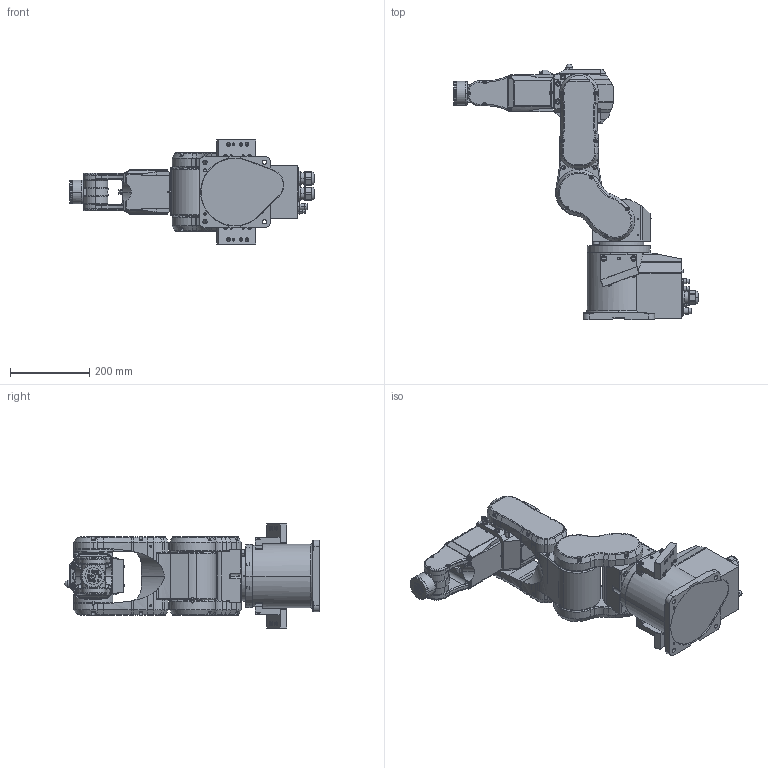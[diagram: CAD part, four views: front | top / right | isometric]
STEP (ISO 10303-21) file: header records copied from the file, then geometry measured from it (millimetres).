
FILE_DESCRIPTION( ( '' ), '1' );
FILE_NAME( '//expscmdclustefs.cadenas.external/client_exchange/iodir/jobs/output/wkb51539215_no0/STEP/C3_A601CA_2_03.stp', '2012-11-23T10:22:47', ( '' ), ( '' ), ' ', ' ', ' ' );
FILE_SCHEMA( ( 'CONFIG_CONTROL_DESIGN' ) );
Length unit declared in the file: millimetre
Products named in the file (9): 1; 2; 3; 4; 5; 6; 7; 8; 9
Bounding box: 614.5 x 643.24 x 264 mm (x, y, z)
Volume: 16507071.1 mm3; surface area: 953331.2 mm2
Topology: 9 solids, 9 shells, 2665 faces, 6618 edges, 4217 vertices
Faces by surface type: plane 1272, cylinder 917, cone 330, torus 144, sphere 2
Entity records: 82495 total; most frequent: CARTESIAN_POINT 17423, DIRECTION 14011, ORIENTED_EDGE 13114, EDGE_CURVE 6557, AXIS2_PLACEMENT_3D 5153, VERTEX_POINT 4217, LINE 3705, VECTOR 3705
